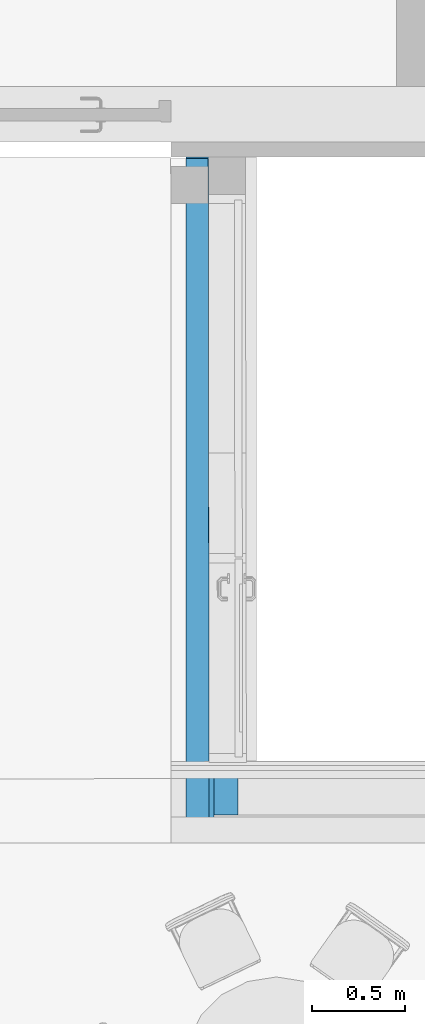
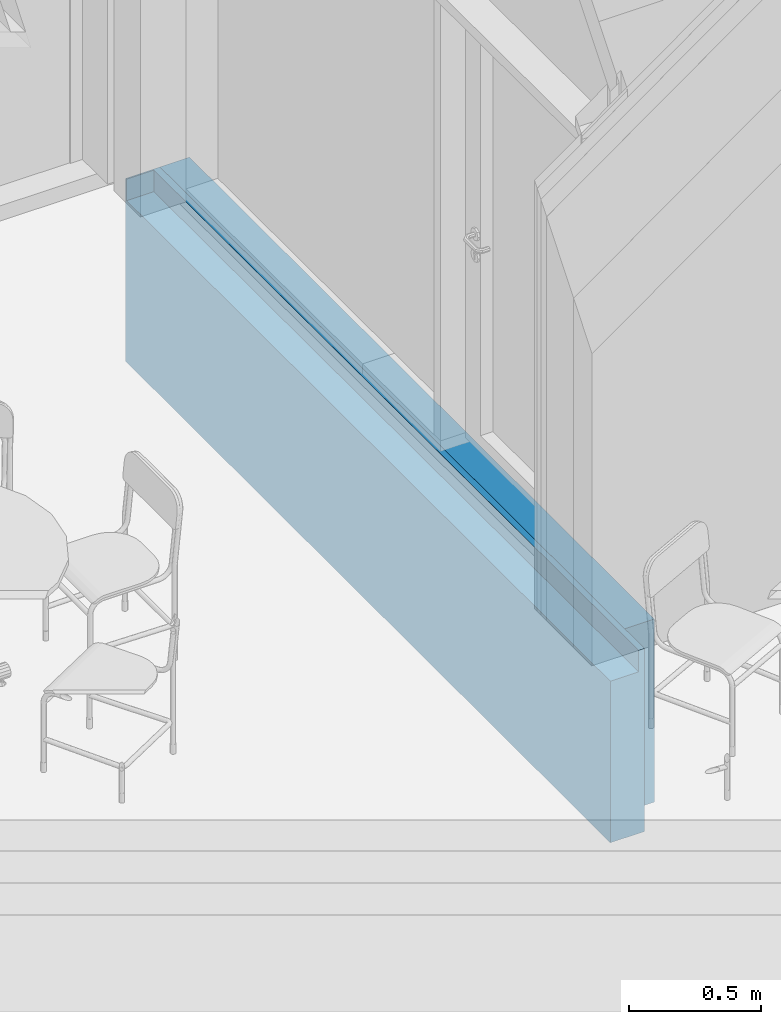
# One storey, part 212 of 301: 2 building element parts, 1 element without a shape of its own.
"""IFC2X3 building model written with IfcOpenShell, lengths in millimetres."""

from ifc_helpers import new_model, entity, si_unit, converted_unit, derived_unit, money_unit, direction, frame, origin_with_axes, place, context, subcontext, project, spatial, faceted_brep, material, type_object, element, aggregate, save


model = new_model("IFC2X3")

# Units and contexts
model_context = context("Model", 3, precision=0.01, world=origin_with_axes(), true_north=direction((0.0, 1.0)))
body_context = subcontext(model_context, "Body", "Model", "MODEL_VIEW")
ifc_project = project(units=[si_unit("LENGTHUNIT", "METRE", prefix="MILLI"), si_unit("AREAUNIT", "SQUARE_METRE"), si_unit("VOLUMEUNIT", "CUBIC_METRE"), converted_unit("PLANEANGLEUNIT", "DEGREE", entity("IfcPlaneAngleMeasure", 0.0174532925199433), si_unit("PLANEANGLEUNIT", "RADIAN"), dimensions=[0, 0, 0, 0, 0, 0, 0]), money_unit("EUR"), converted_unit("TIMEUNIT", "Year", entity("IfcTimeMeasure", 31557600.0), si_unit("TIMEUNIT", "SECOND"), dimensions=[0, 0, 1, 0, 0, 0, 0]), si_unit("MASSUNIT", "GRAM", prefix="KILO"), si_unit("THERMODYNAMICTEMPERATUREUNIT", "DEGREE_CELSIUS"), si_unit("LUMINOUSINTENSITYUNIT", "LUMEN"), si_unit("ENERGYUNIT", "JOULE", prefix="MEGA"), derived_unit("THERMALCONDUCTANCEUNIT", [(si_unit("POWERUNIT", "WATT"), 1), (si_unit("LENGTHUNIT", "METRE"), -1), (si_unit("THERMODYNAMICTEMPERATUREUNIT", "KELVIN"), -1)]), derived_unit("SPECIFICHEATCAPACITYUNIT", [(si_unit("ENERGYUNIT", "JOULE"), 1), (si_unit("MASSUNIT", "GRAM", prefix="KILO"), -1), (si_unit("THERMODYNAMICTEMPERATUREUNIT", "KELVIN"), -1)]), derived_unit("MASSDENSITYUNIT", [(si_unit("MASSUNIT", "GRAM", prefix="KILO"), 1), (si_unit("VOLUMEUNIT", "CUBIC_METRE"), -1)])], contexts=[model_context])

# Site, building, storey
site_placement = place(None, frame((0.0, 0.0, 8650.0), z_axis=(0.0, 0.0, 1.0), x_axis=(1.0, 0.0, 0.0)))
site = spatial("IfcSite", under=ifc_project, at=site_placement, Name="43301:001:0844", CompositionType="ELEMENT")
building_placement = place(site_placement, origin_with_axes())
building = spatial("IfcBuilding", under=site, at=building_placement, Name="Kuressaare Ametikooli tuulikute mehaanikute õppekorpus", CompositionType="ELEMENT")
storey_placement = place(building_placement, origin_with_axes())
storey = spatial("IfcBuildingStorey", under=building, at=storey_placement, Name="1.korrus", CompositionType="ELEMENT", Elevation=0.0)

# Wall, building element parts
wall_type = type_object("IfcWallType", Name="TUUL_vundament_madal 380 x 850", PredefinedType="NOTDEFINED")
wall_placement = place(storey_placement, frame((130256.4547534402, 31928.72897390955, 0.0), z_axis=(0.0, 0.0, 1.0), x_axis=(-8.787762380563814e-06, -0.9999999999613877, 0.0)))
wall = element("IfcWall", 1, at=wall_placement, inside=storey, type_object=wall_type, Name="Sokkel")
ifc_material_1 = material(Name="Soojustus - Vahtpolüstüreen")
building_element_part_1_placement = place(wall_placement, origin_with_axes())
building_element_part_1 = element("IfcBuildingElementPart", 2, at=building_element_part_1_placement, material=ifc_material_1, Name="Soojustus - Vahtpolüstüreen", context=body_context, shape_type="Brep", body=[
    faceted_brep([(0.0, 49.99999478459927, 0.0), (3534.655640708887, 49.99999478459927, 0.0), (3534.653355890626, 179.9999970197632, 0.0), (0.0, 179.9999970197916, 0.0), (0.0, 49.99999478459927, -850.0000000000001), (3534.655640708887, 49.99999478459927, -850.0000000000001), (3534.653355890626, 179.9999970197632, -850.0000000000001), (0.0, 179.9999970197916, -850.0000000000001)], [[[0, 1, 2, 3]], [[4, 5, 1, 0]], [[5, 6, 2, 1]], [[3, 2, 6, 7]], [[7, 4, 0, 3]], [[7, 6, 5, 4]]]),
])
ifc_material_2 = material(Name="Betoon - C30/37")
building_element_part_2_placement = place(wall_placement, origin_with_axes())
building_element_part_2 = element("IfcBuildingElementPart", 3, at=building_element_part_2_placement, material=ifc_material_2, Name="Betoon - C30/37", context=body_context, shape_type="Brep", body=[
    faceted_brep([(3684.658267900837, -99.9999999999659, -850.0000000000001), (3684.658267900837, -99.9999999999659, -99.99999999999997), (6.830072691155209, -99.9999999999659, -99.99999999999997), (6.830072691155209, -99.9999999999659, 0.0), (0.0, -99.9999999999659, 0.0), (0.0, -99.9999999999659, -850.0000000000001), (3684.659832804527, 24.72724433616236, -99.99999999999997), (6.829020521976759, 19.73118205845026, -99.99999999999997), (6.829020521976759, 19.73118205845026, 0.0), (3684.650843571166, 24.72723212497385, 0.0), (3684.650704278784, 50.00000000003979, 0.0), (0.0, 50.00000000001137, 0.0), (0.0, 50.00000000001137, -850.0000000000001), (3684.655631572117, 50.00000000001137, -850.0000000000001), (3684.655640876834, 49.4705867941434, -3.000000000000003), (3684.655757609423, 49.2418153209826, -3.000000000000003), (3684.650843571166, 24.72723212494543, -3.000000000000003), (3684.650704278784, 50.00000000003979, -3.000000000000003)], [[[0, 1, 2, 3, 4, 5]], [[1, 0, 6]], [[2, 1, 6, 7]], [[3, 2, 7, 8]], [[4, 3, 8, 9, 10, 11]], [[5, 4, 11, 12]], [[0, 5, 12, 13]], [[6, 0, 14, 15]], [[8, 7, 6, 16, 9]], [[15, 14, 17, 10, 9, 16]], [[17, 13, 12, 11, 10]], [[0, 13, 17, 14]], [[6, 15, 16]]]),
])
aggregate(wall, [building_element_part_1, building_element_part_2])

save(model, "model.ifc")
